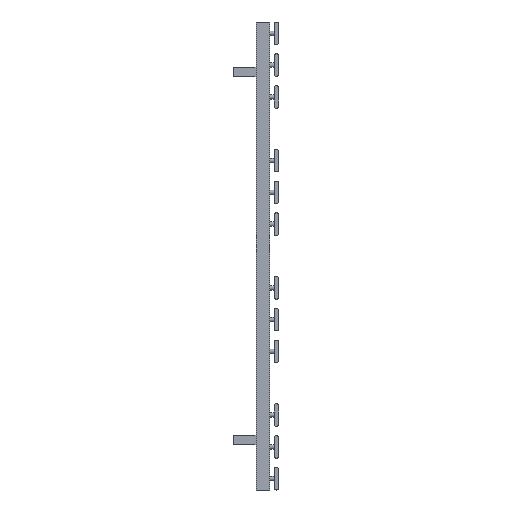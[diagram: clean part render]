
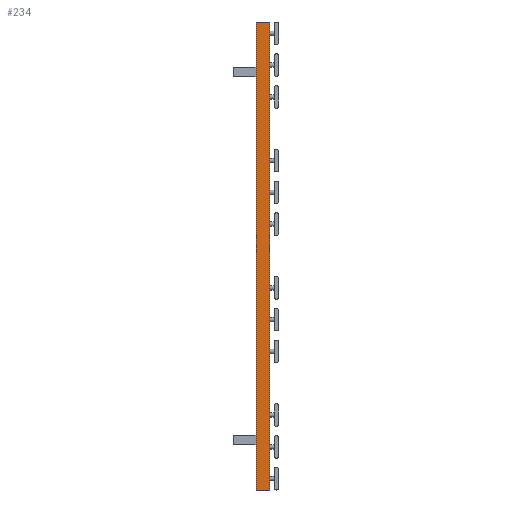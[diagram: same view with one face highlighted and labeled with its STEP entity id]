
A CAD part, left-side view. The second image highlights one B-rep face of the part: STEP entity #234.
In plain terms, the highlighted planar face has unit normal (-1, 0, 0).
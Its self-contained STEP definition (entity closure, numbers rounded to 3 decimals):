
#234 = ADVANCED_FACE( '', ( #577 ), #578, .F. );
#577 = FACE_OUTER_BOUND( '', #1044, .T. );
#578 = PLANE( '', #1045 );
#1044 = EDGE_LOOP( '', ( #1701, #1702, #1703, #1704 ) );
#1045 = AXIS2_PLACEMENT_3D( '', #1705, #1706, #1707 );
#1701 = ORIENTED_EDGE( '', *, *, #2412, .T. );
#1702 = ORIENTED_EDGE( '', *, *, #2591, .F. );
#1703 = ORIENTED_EDGE( '', *, *, #2592, .F. );
#1704 = ORIENTED_EDGE( '', *, *, #2593, .T. );
#1705 = CARTESIAN_POINT( '', ( -240., 45., -1005. ) );
#1706 = DIRECTION( '', ( 1., 0., 0. ) );
#1707 = DIRECTION( '', ( 0., 0., -1. ) );
#2412 = EDGE_CURVE( '', #2823, #2821, #2824, .T. );
#2591 = EDGE_CURVE( '', #3121, #2821, #3122, .T. );
#2592 = EDGE_CURVE( '', #3123, #3121, #3124, .T. );
#2593 = EDGE_CURVE( '', #3123, #2823, #3125, .T. );
#2821 = VERTEX_POINT( '', #3410 );
#2823 = VERTEX_POINT( '', #3413 );
#2824 = LINE( '', #3414, #3415 );
#3121 = VERTEX_POINT( '', #3810 );
#3122 = LINE( '', #3811, #3812 );
#3123 = VERTEX_POINT( '', #3813 );
#3124 = LINE( '', #3814, #3815 );
#3125 = LINE( '', #3816, #3817 );
#3410 = CARTESIAN_POINT( '', ( -240., 15., 25. ) );
#3413 = CARTESIAN_POINT( '', ( -240., 15., -1005. ) );
#3414 = CARTESIAN_POINT( '', ( -240., 15., -1005. ) );
#3415 = VECTOR( '', #4162, 1000. );
#3810 = CARTESIAN_POINT( '', ( -240., 45., 25. ) );
#3811 = CARTESIAN_POINT( '', ( -240., 45., 25. ) );
#3812 = VECTOR( '', #4381, 1000. );
#3813 = CARTESIAN_POINT( '', ( -240., 45., -1005. ) );
#3814 = CARTESIAN_POINT( '', ( -240., 45., -1005. ) );
#3815 = VECTOR( '', #4382, 1000. );
#3816 = CARTESIAN_POINT( '', ( -240., 45., -1005. ) );
#3817 = VECTOR( '', #4383, 1000. );
#4162 = DIRECTION( '', ( 0., 0., 1. ) );
#4381 = DIRECTION( '', ( 0., -1., 0. ) );
#4382 = DIRECTION( '', ( 0., 0., 1. ) );
#4383 = DIRECTION( '', ( 0., -1., 0. ) );
